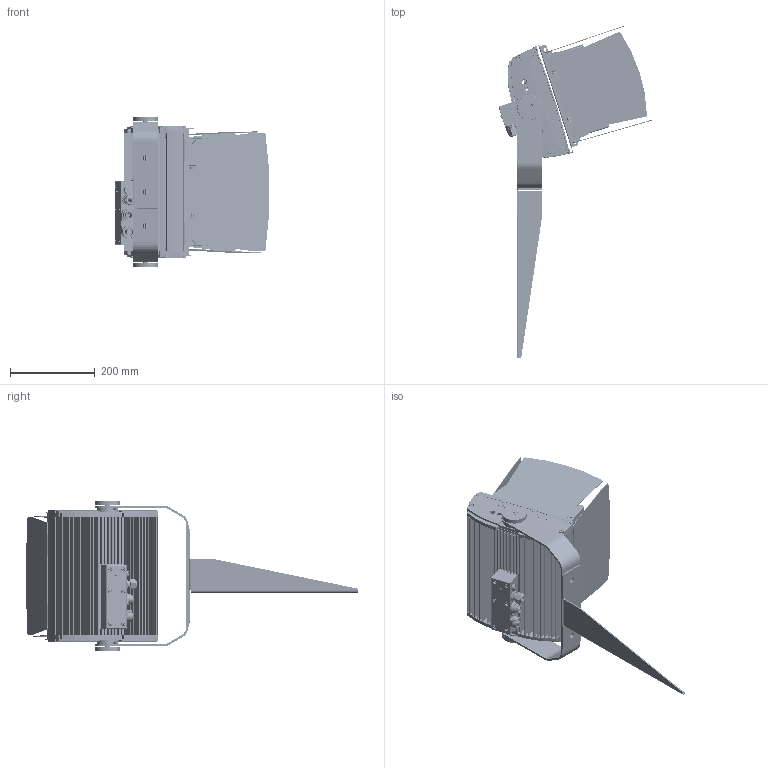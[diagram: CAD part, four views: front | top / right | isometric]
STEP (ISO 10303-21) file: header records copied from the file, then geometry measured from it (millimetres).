
FILE_DESCRIPTION(/* description */ ('','CAx-IF Rec.Pracs.---Representation and Presentation of Product Manufacturing Information (PMI)---4.0---2014-10-13'),/* implementation_level */ '2;1');
FILE_NAME(/* name */ '210710 - MEGAWHITE 33 M.stp',/* time_stamp */ '2026-01-13T12:00:41+01:00',/* author */ ('vilfredomariaricci'),/* organization */ (''),/* preprocessor_version */ 'ST-DEVELOPER v20',/* originating_system */ 'Autodesk Inventor 2025',/* authorisation */ '');
FILE_SCHEMA (('AP242_MANAGED_MODEL_BASED_3D_ENGINEERING_MIM_LF { 1 0 10303 442 1 1 4 }'));
Products named in the file (96): 210710 - MEGAWHITE 33 M; 210710-BASE-00; 210710-010-00; 210710-010-00_1; 210710-013-00; 210710-013-00_1; ISO 10642 - M8x25; 210710 - GARDEN SPYKE; 210710-300-00; 210710-300-00_1; 210710-TESTA-00; 210710-001-00; 210710-001-00_1; 210710-011-00; 210710-011-00_1; 210710-014-00; Vite_TCEI_AF_4,8x22; 210710-012-00; 210710-008-00; 210710-008-00_1; 210710-009-00; Tappo Valvolina Anticondensa; PG 11; DMX_Female; DMX_Male; UNI 5931 - M 3 x  10; UNI 5931 - M 4 x  40; 210710-026-00; 210710-ELETTRONICA; 210710-015-00; 210710-015-00_1; BSO-M3-12 ZI; F-M5-2; FH-M3-10 ZI; UNI 5931 - M 5 x  10; CIRCUITO-MP-SPD10KV-UL; CIRCUITO-MP-SPD10KV-UL_1; ISO 7045 - M3 x 6 - 4.8 - Z; xlg-150-3D; PCB_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
Assembly tree (299 placements, depth 6):
  210710 - MEGAWHITE 33 M
    210710-BASE-00
      210710-010-00
        210710-010-00_1
      210710-013-00  x2
        210710-013-00_1
        ISO 10642 - M8x25
      210710 - GARDEN SPYKE
        210710-300-00
          210710-300-00_1
    210710-TESTA-00
      210710-001-00
        210710-001-00_1
      210710-011-00  x2
        210710-011-00_1
        210710-014-00
        Vite_TCEI_AF_4,8x22
        210710-012-00
      210710-008-00
        210710-008-00_1
        210710-009-00
        Tappo Valvolina Anticondensa
        PG 11
        DMX_Female
        DMX_Male
        UNI 5931 - M 3 x  10  x5
        UNI 5931 - M 4 x  40  x6
      210710-026-00
      210710-ELETTRONICA
        210710-015-00
          210710-015-00_1
          BSO-M3-12 ZI  x3
          FH-M4-10 ZI  x4
          FH-M3-10 ZI  x16
          F-M5-2  x4
        UNI 5931 - M 5 x  10  x4
        UNI 6592 - 5,3 x 10  x4
        CIRCUITO-MP-SPD10KV-UL
          CIRCUITO-MP-SPD10KV-UL_1
          ISO 7045 - M3 x 6 - 4.8 - Z  x3
        xlg-150-3D
          PCB_
          243A-D_
          243A-T_
          VRZHU_
          VRSAI_
        CIRCUITO-MEGAWHITE30-RDM
          CIRCUITO-MEGAWHITE30-RDM_1
          LED  x30
          LENTE KING BRITE  x30
            CESTELLO KING BRITE
            LENTE KING BRITE_1
          Distanziale FF M3x15  x12
        210710-016-00
          210710-016-00_1
          ISO 7046-1 - M3 x 6  x12
      210710 - ANTIGLARE
        210710-060-00
          210710-060-00_1
          FH-M4-10 ZI  x2
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Bounding box: 365.63 x 783.71 x 356 mm (x, y, z)
Volume: 4053808.1 mm3; surface area: 3751417.7 mm2
Topology: 346 solids, 346 shells, 14758 faces, 37708 edges, 24246 vertices
Faces by surface type: plane 8002, cylinder 3714, cone 1945, bspline 564, torus 463, sphere 70
Full cylindrical faces by diameter (mm): 0.2 x60, 1 x60, 1.2 x120, 1.5 x4, 1.6 x4, 2.3 x6, 2.459 x42, 2.6 x3, 2.693 x12, 2.729 x3, 3 x99, 3.1 x44, 3.2 x33, 3.242 x16, 3.5 x6, 3.6 x18, 3.8 x3, 3.9 x4, 4 x82, 4.1 x14, 4.134 x8, 4.2 x9, 4.3 x10, 4.5 x16, 4.567 x8, 4.6 x38, 4.76 x12, 4.8 x8, 5 x19, 5.1 x12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
Entity records: 168192 total; most frequent: CARTESIAN_POINT 38398, DIRECTION 27650, ORIENTED_EDGE 25072, EDGE_CURVE 12536, AXIS2_PLACEMENT_3D 10306, VERTEX_POINT 7949, LINE 7038, VECTOR 7038
